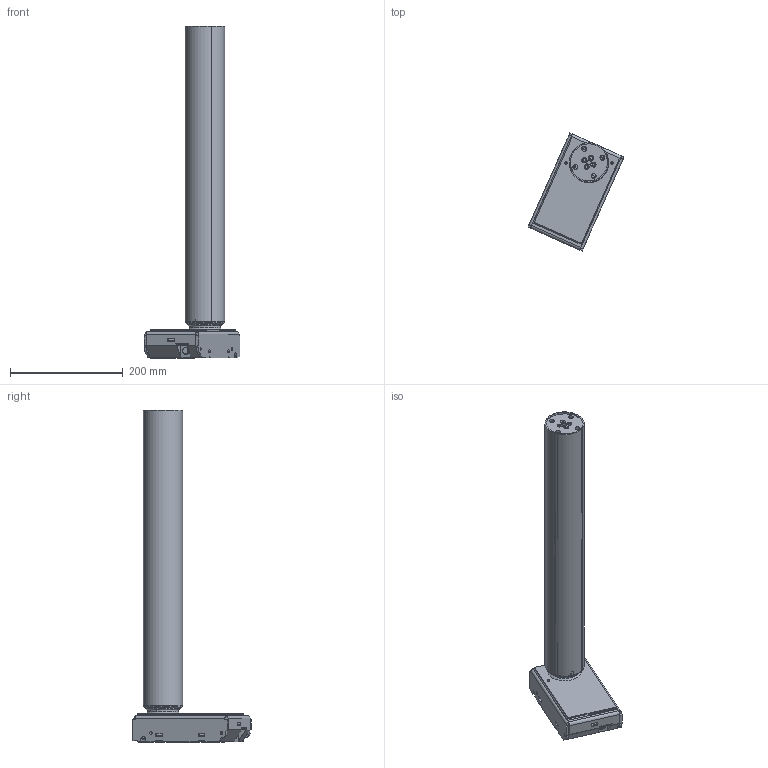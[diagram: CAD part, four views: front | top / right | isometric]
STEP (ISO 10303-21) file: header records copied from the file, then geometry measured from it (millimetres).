
FILE_DESCRIPTION (( 'STEP AP203' ), '1' );
FILE_NAME ('3D_TL9.STEP', '2024-08-21T07:42:58', ( '' ), ( '' ), 'SwSTEP 2.0', 'SolidWorks 2015', '' );
FILE_SCHEMA (( 'CONFIG_CONTROL_DESIGN' ));
Products named in the file (2): 3D_TL9
Bounding box: 170.36 x 209.89 x 590 mm (x, y, z)
Volume: 829580.9 mm3; surface area: 771150.2 mm2
Topology: 11 solids, 11 shells, 2402 faces, 6267 edges, 3736 vertices
Faces by surface type: cylinder 978, plane 674, bspline 345, cone 168, sphere 121, torus 116
Entity records: 96666 total; most frequent: CARTESIAN_POINT 41166, ORIENTED_EDGE 12258, DIRECTION 10809, EDGE_CURVE 6129, AXIS2_PLACEMENT_3D 4087, VERTEX_POINT 3736, LINE 2635, VECTOR 2635
